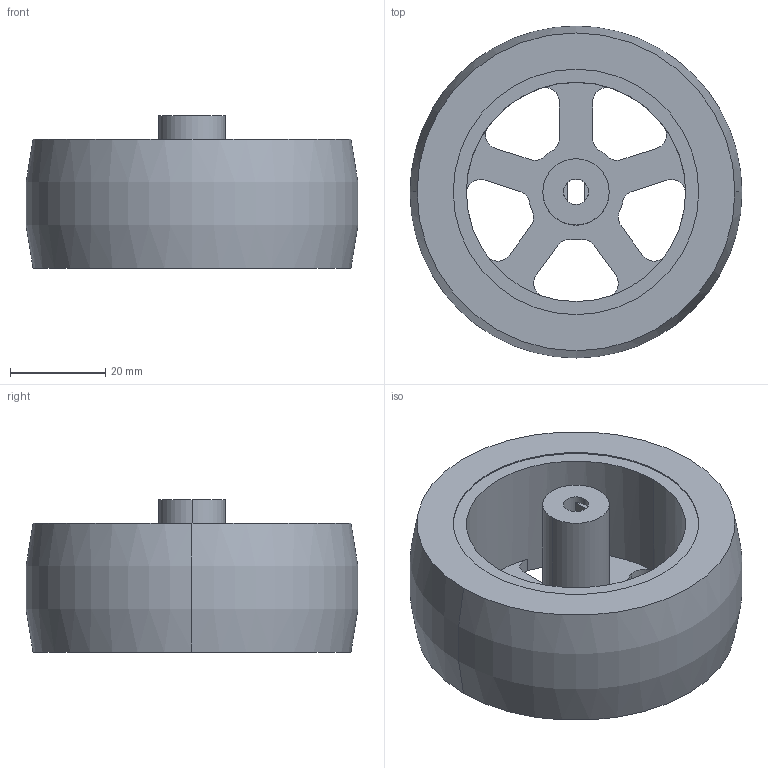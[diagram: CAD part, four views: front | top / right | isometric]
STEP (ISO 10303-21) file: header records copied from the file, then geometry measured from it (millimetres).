
FILE_DESCRIPTION (( 'STEP AP203' ), '1' );
FILE_NAME ('TT Wheel (ACP).STEP', '2020-05-02T05:31:41', ( '' ), ( '' ), 'SwSTEP 2.0', 'SolidWorks 2019', '' );
FILE_SCHEMA (( 'CONFIG_CONTROL_DESIGN' ));
Length unit declared in the file: millimetre
Products named in the file (1): TT Wheel (ACP)
Bounding box: 69.63 x 69.63 x 31.95 mm (x, y, z)
Volume: 61859.6 mm3; surface area: 17120.5 mm2
Topology: 1 solids, 1 shells, 61 faces, 180 edges, 120 vertices
Faces by surface type: cylinder 39, plane 20, torus 2
Entity records: 2193 total; most frequent: DIRECTION 402, CARTESIAN_POINT 362, ORIENTED_EDGE 360, EDGE_CURVE 180, AXIS2_PLACEMENT_3D 160, VERTEX_POINT 120, CIRCLE 98, VECTOR 82
